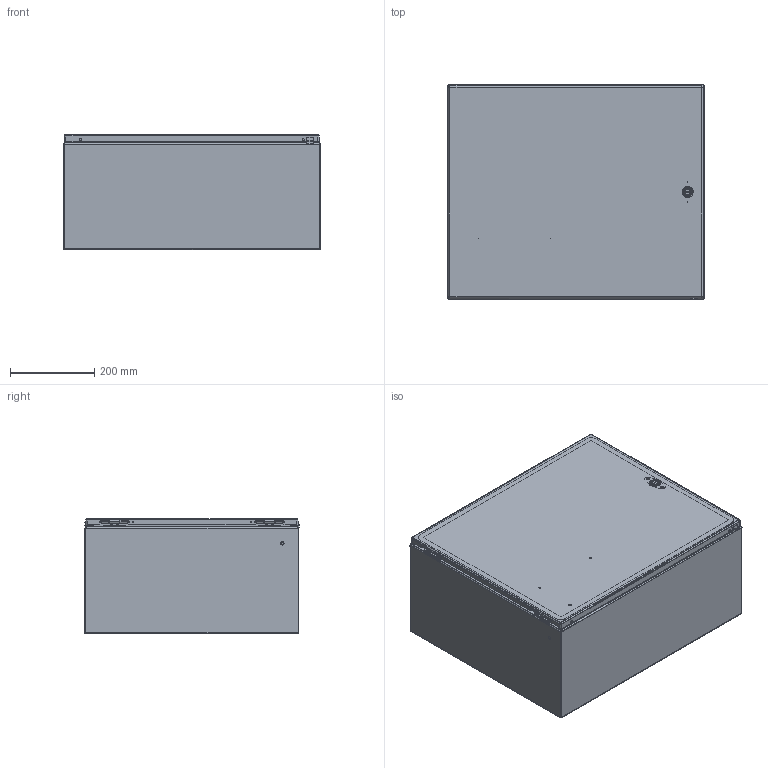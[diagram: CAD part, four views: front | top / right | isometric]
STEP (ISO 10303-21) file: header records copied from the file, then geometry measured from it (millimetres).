
FILE_DESCRIPTION (( 'STEP AP203' ), '1' );
FILE_NAME ('csd202410.STEP', '2012-05-09T16:16:01', ( 'User' ), ( 'Pentair Inc' ), 'SwSTEP 2.0', 'SolidWorks 2010', '' );
FILE_SCHEMA (( 'CONFIG_CONTROL_DESIGN' ));
Length unit declared in the file: inch
Products named in the file (27): csd202410; 87934544; 87934347_default; 23271001_After Weld; 87937927_assy; 87937967_weldment; 87936128; 99401225; 87931362_87931362; 64101001; 64201001; 87541994_Installed Height; 87541995; 64202001; 64210001; 64203001; 87927840_87927840; 87932903; 64138001; 87938001; 87543027; 89076399; 89076193; 89056623; 87929507; 87929767; 87929769_Installed on Pin
Assembly tree (38 placements, depth 4):
  csd202410
    87929507  x2
      87929767
      87929769_Installed on Pin
    87543027  x2
    89076399  x2
      89076193
      89056623
    87934544
      87934347_default
      99401225
      23271001_After Weld  x4
    87937927_assy
      87937967_weldment
        87931362_87931362  x4
        87936128
        99401225
      64138001  x2
      87932903  x2
      87938001
      64101001
        87541994_Installed Height
        64201001
        87927840_87927840
        87541995
        64202001
        64210001
        64203001
Bounding box: 609.6 x 508.73 x 274.7 mm (x, y, z)
Volume: 1748891.5 mm3; surface area: 2682553.9 mm2
Topology: 35 solids, 35 shells, 1689 faces, 4125 edges, 2490 vertices
Faces by surface type: plane 652, cylinder 547, bspline 288, torus 106, cone 88, sphere 8
Entity records: 46223 total; most frequent: CARTESIAN_POINT 16302, ORIENTED_EDGE 5874, DIRECTION 5117, EDGE_CURVE 2937, AXIS2_PLACEMENT_3D 1833, VERTEX_POINT 1802, LINE 1451, VECTOR 1451
